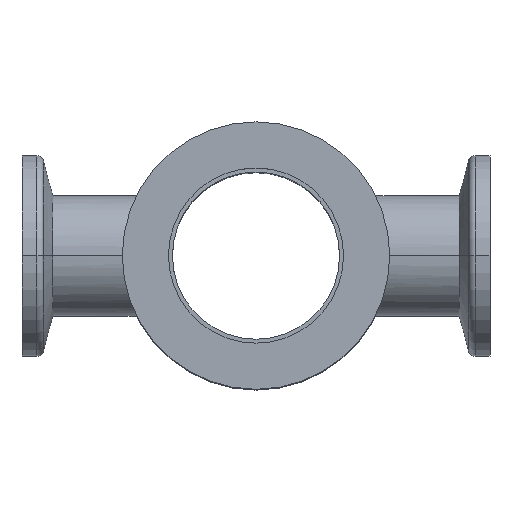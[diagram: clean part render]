
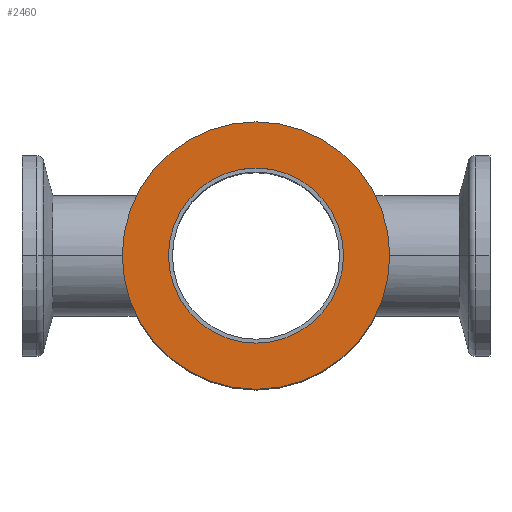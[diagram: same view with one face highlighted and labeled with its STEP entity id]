
A CAD part, top view. The second image highlights one B-rep face of the part: STEP entity #2460.
In plain terms, the highlighted planar face has unit normal (0, 0, 1).
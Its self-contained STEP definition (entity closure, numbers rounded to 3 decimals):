
#1 = CARTESIAN_POINT ( 'NONE',  ( 0., 0., 0. ) ) ;
#11 = AXIS2_PLACEMENT_3D ( 'NONE', #2129, #321, #105 ) ;
#19 = ORIENTED_EDGE ( 'NONE', *, *, #1267, .T. ) ;
#25 = DIRECTION ( 'NONE',  ( 0., 0., 1. ) ) ;
#105 = DIRECTION ( 'NONE',  ( 1., 0., 0. ) ) ;
#145 = CIRCLE ( 'NONE', #2144, 20. ) ;
#180 = VERTEX_POINT ( 'NONE', #407 ) ;
#321 = DIRECTION ( 'NONE',  ( 0., 0., 1. ) ) ;
#381 = EDGE_CURVE ( 'NONE', #180, #1316, #1117, .T. ) ;
#397 = DIRECTION ( 'NONE',  ( 1., 0., 0. ) ) ;
#407 = CARTESIAN_POINT ( 'NONE',  ( -13.1, 0., 0. ) ) ;
#462 = CARTESIAN_POINT ( 'NONE',  ( 0., 0., 0. ) ) ;
#476 = CIRCLE ( 'NONE', #878, 20. ) ;
#763 = PLANE ( 'NONE',  #11 ) ;
#878 = AXIS2_PLACEMENT_3D ( 'NONE', #462, #1636, #2576 ) ;
#924 = DIRECTION ( 'NONE',  ( 0., 0., 1. ) ) ;
#964 = EDGE_CURVE ( 'NONE', #1390, #2426, #145, .T. ) ;
#1089 = CARTESIAN_POINT ( 'NONE',  ( 20., 0., 0. ) ) ;
#1117 = CIRCLE ( 'NONE', #1262, 13.1 ) ;
#1173 = CARTESIAN_POINT ( 'NONE',  ( 13.1, 0., 0. ) ) ;
#1262 = AXIS2_PLACEMENT_3D ( 'NONE', #1886, #25, #1685 ) ;
#1267 = EDGE_CURVE ( 'NONE', #2426, #1390, #476, .T. ) ;
#1316 = VERTEX_POINT ( 'NONE', #1173 ) ;
#1390 = VERTEX_POINT ( 'NONE', #1089 ) ;
#1412 = EDGE_CURVE ( 'NONE', #1316, #180, #2888, .T. ) ;
#1636 = DIRECTION ( 'NONE',  ( 0., 0., 1. ) ) ;
#1642 = EDGE_LOOP ( 'NONE', ( #2456, #19 ) ) ;
#1685 = DIRECTION ( 'NONE',  ( 1., 0., 0. ) ) ;
#1687 = FACE_BOUND ( 'NONE', #2983, .T. ) ;
#1737 = ORIENTED_EDGE ( 'NONE', *, *, #1412, .F. ) ;
#1861 = DIRECTION ( 'NONE',  ( 1., 0., 0. ) ) ;
#1886 = CARTESIAN_POINT ( 'NONE',  ( 0., 0., 0. ) ) ;
#1906 = CARTESIAN_POINT ( 'NONE',  ( -20., 0., 0. ) ) ;
#1942 = FACE_OUTER_BOUND ( 'NONE', #1642, .T. ) ;
#2004 = ORIENTED_EDGE ( 'NONE', *, *, #381, .F. ) ;
#2129 = CARTESIAN_POINT ( 'NONE',  ( 0., 20., 0. ) ) ;
#2144 = AXIS2_PLACEMENT_3D ( 'NONE', #1, #924, #1861 ) ;
#2215 = CARTESIAN_POINT ( 'NONE',  ( 0., 0., 0. ) ) ;
#2243 = AXIS2_PLACEMENT_3D ( 'NONE', #2215, #2937, #397 ) ;
#2426 = VERTEX_POINT ( 'NONE', #1906 ) ;
#2456 = ORIENTED_EDGE ( 'NONE', *, *, #964, .T. ) ;
#2460 = ADVANCED_FACE ( 'NONE', ( #1942, #1687 ), #763, .T. ) ;
#2576 = DIRECTION ( 'NONE',  ( 1., 0., 0. ) ) ;
#2888 = CIRCLE ( 'NONE', #2243, 13.1 ) ;
#2937 = DIRECTION ( 'NONE',  ( 0., 0., 1. ) ) ;
#2983 = EDGE_LOOP ( 'NONE', ( #1737, #2004 ) ) ;
